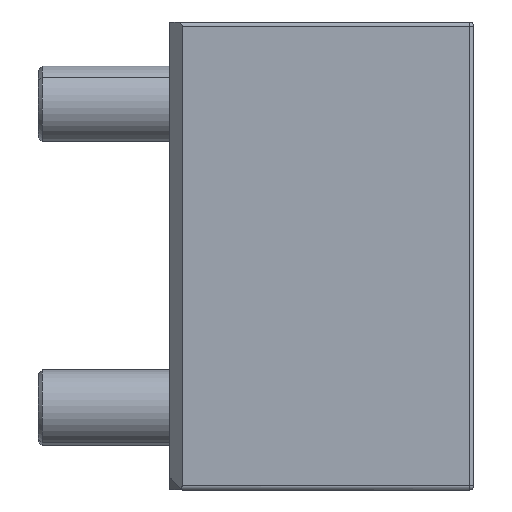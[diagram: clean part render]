
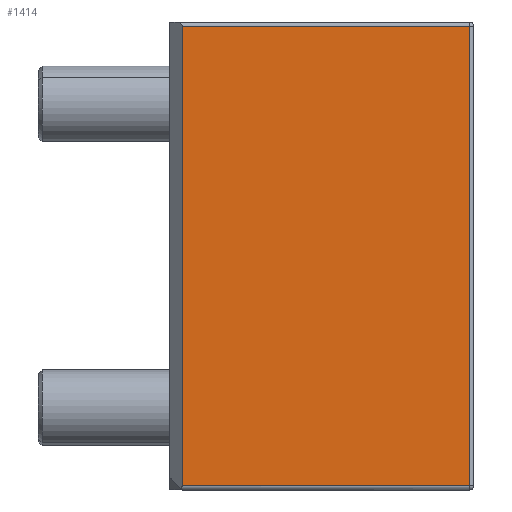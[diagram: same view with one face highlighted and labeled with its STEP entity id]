
A CAD part, front view. The second image highlights one B-rep face of the part: STEP entity #1414.
In plain terms, the highlighted planar face has unit normal (0, -1, 0) as drawn and (0, 1, 0) by its records, which use the part's own axes.
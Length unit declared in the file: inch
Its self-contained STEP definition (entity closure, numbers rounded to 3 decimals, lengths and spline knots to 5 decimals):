
#19 = CARTESIAN_POINT ( 'NONE',  ( -1.135, 0., -0.02 ) ) ;
#111 = LINE ( 'NONE', #476, #1651 ) ;
#134 = CARTESIAN_POINT ( 'NONE',  ( 1.135, 0., -1.44 ) ) ;
#182 = EDGE_CURVE ( 'NONE', #1614, #1096, #111, .T. ) ;
#208 = PLANE ( 'NONE',  #1321 ) ;
#222 = CARTESIAN_POINT ( 'NONE',  ( -1.135, 0., -1.44 ) ) ;
#322 = VECTOR ( 'NONE', #1668, 39.37008 ) ;
#428 = EDGE_LOOP ( 'NONE', ( #1201, #1254, #1748, #1857 ) ) ;
#461 = EDGE_CURVE ( 'NONE', #1096, #1677, #1417, .T. ) ;
#476 = CARTESIAN_POINT ( 'NONE',  ( -1.135, 0., -1.5 ) ) ;
#544 = CARTESIAN_POINT ( 'NONE',  ( 1.135, 0., -1.5 ) ) ;
#570 = FACE_OUTER_BOUND ( 'NONE', #428, .T. ) ;
#669 = VERTEX_POINT ( 'NONE', #134 ) ;
#698 = DIRECTION ( 'NONE',  ( -1., 0., 0. ) ) ;
#759 = CARTESIAN_POINT ( 'NONE',  ( 1.155, 0., -0.02 ) ) ;
#871 = DIRECTION ( 'NONE',  ( 0., 1., 0. ) ) ;
#1045 = VECTOR ( 'NONE', #1633, 39.37008 ) ;
#1096 = VERTEX_POINT ( 'NONE', #19 ) ;
#1099 = DIRECTION ( 'NONE',  ( 1., 0., 0. ) ) ;
#1108 = DIRECTION ( 'NONE',  ( 0., 0., 1. ) ) ;
#1201 = ORIENTED_EDGE ( 'NONE', *, *, #461, .T. ) ;
#1254 = ORIENTED_EDGE ( 'NONE', *, *, #1342, .T. ) ;
#1321 = AXIS2_PLACEMENT_3D ( 'NONE', #1337, #871, #698 ) ;
#1337 = CARTESIAN_POINT ( 'NONE',  ( -1.155, 0., -1.5 ) ) ;
#1342 = EDGE_CURVE ( 'NONE', #1677, #669, #1623, .T. ) ;
#1369 = VECTOR ( 'NONE', #1099, 39.37008 ) ;
#1414 = ADVANCED_FACE ( 'NONE', ( #570 ), #208, .T. ) ;
#1417 = LINE ( 'NONE', #759, #1369 ) ;
#1481 = LINE ( 'NONE', #1803, #322 ) ;
#1590 = EDGE_CURVE ( 'NONE', #669, #1614, #1481, .T. ) ;
#1614 = VERTEX_POINT ( 'NONE', #222 ) ;
#1623 = LINE ( 'NONE', #544, #1045 ) ;
#1633 = DIRECTION ( 'NONE',  ( 0., 0., -1. ) ) ;
#1651 = VECTOR ( 'NONE', #1108, 39.37008 ) ;
#1668 = DIRECTION ( 'NONE',  ( -1., 0., 0. ) ) ;
#1677 = VERTEX_POINT ( 'NONE', #1901 ) ;
#1748 = ORIENTED_EDGE ( 'NONE', *, *, #1590, .T. ) ;
#1803 = CARTESIAN_POINT ( 'NONE',  ( -1.155, 0., -1.44 ) ) ;
#1857 = ORIENTED_EDGE ( 'NONE', *, *, #182, .T. ) ;
#1901 = CARTESIAN_POINT ( 'NONE',  ( 1.135, 0., -0.02 ) ) ;
